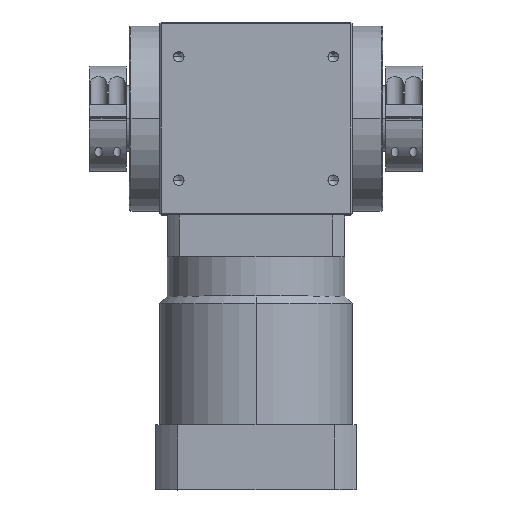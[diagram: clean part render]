
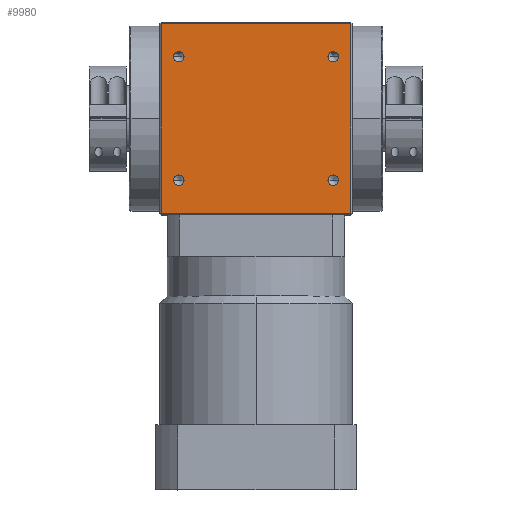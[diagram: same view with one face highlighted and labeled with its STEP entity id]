
A CAD part, top view. The second image highlights one B-rep face of the part: STEP entity #9980.
In plain terms, the highlighted planar face has unit normal (0, 0, 1).
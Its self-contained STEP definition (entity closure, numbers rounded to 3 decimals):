
#22 = EDGE_CURVE ( 'NONE', #7544, #5916, #7063, .T. ) ;
#277 = ORIENTED_EDGE ( 'NONE', *, *, #7768, .F. ) ;
#312 = LINE ( 'NONE', #6356, #7267 ) ;
#472 = EDGE_CURVE ( 'NONE', #9525, #8159, #312, .T. ) ;
#629 = EDGE_CURVE ( 'NONE', #7377, #10621, #2488, .T. ) ;
#976 = FACE_BOUND ( 'NONE', #4192, .T. ) ;
#1015 = LINE ( 'NONE', #2960, #9079 ) ;
#1017 = VERTEX_POINT ( 'NONE', #1633 ) ;
#1079 = FACE_BOUND ( 'NONE', #9977, .T. ) ;
#1166 = CIRCLE ( 'NONE', #1549, 3.4 ) ;
#1504 = CARTESIAN_POINT ( 'NONE',  ( 61.5, -61.5, 62.5 ) ) ;
#1528 = AXIS2_PLACEMENT_3D ( 'NONE', #6825, #1627, #7669 ) ;
#1540 = ORIENTED_EDGE ( 'NONE', *, *, #10075, .F. ) ;
#1549 = AXIS2_PLACEMENT_3D ( 'NONE', #3327, #9321, #4227 ) ;
#1627 = DIRECTION ( 'NONE',  ( 0., 0., 1. ) ) ;
#1633 = CARTESIAN_POINT ( 'NONE',  ( -53.4, -40., 62.5 ) ) ;
#1812 = ORIENTED_EDGE ( 'NONE', *, *, #10157, .F. ) ;
#1841 = ORIENTED_EDGE ( 'NONE', *, *, #4906, .F. ) ;
#1879 = AXIS2_PLACEMENT_3D ( 'NONE', #8380, #3185, #9173 ) ;
#1909 = AXIS2_PLACEMENT_3D ( 'NONE', #4978, #10813, #5836 ) ;
#1947 = DIRECTION ( 'NONE',  ( 1., 0., 0. ) ) ;
#1999 = CARTESIAN_POINT ( 'NONE',  ( 50., 40., 62.5 ) ) ;
#2009 = DIRECTION ( 'NONE',  ( 0., 0., 1. ) ) ;
#2028 = AXIS2_PLACEMENT_3D ( 'NONE', #2253, #8304, #3100 ) ;
#2252 = ORIENTED_EDGE ( 'NONE', *, *, #10061, .F. ) ;
#2253 = CARTESIAN_POINT ( 'NONE',  ( 61.5, -61.5, 62.5 ) ) ;
#2259 = ORIENTED_EDGE ( 'NONE', *, *, #9415, .F. ) ;
#2342 = CIRCLE ( 'NONE', #1879, 3.4 ) ;
#2417 = AXIS2_PLACEMENT_3D ( 'NONE', #1999, #2009, #1947 ) ;
#2435 = CARTESIAN_POINT ( 'NONE',  ( -61.5, 61.5, 62.5 ) ) ;
#2488 = LINE ( 'NONE', #8194, #7912 ) ;
#2550 = EDGE_CURVE ( 'NONE', #8159, #7377, #1015, .T. ) ;
#2624 = CARTESIAN_POINT ( 'NONE',  ( 46.6, 40., 62.5 ) ) ;
#2819 = ORIENTED_EDGE ( 'NONE', *, *, #2550, .F. ) ;
#2960 = CARTESIAN_POINT ( 'NONE',  ( 61.5, 61.5, 62.5 ) ) ;
#2995 = DIRECTION ( 'NONE',  ( 1., 0., 0. ) ) ;
#3100 = DIRECTION ( 'NONE',  ( -1., 0., 0. ) ) ;
#3185 = DIRECTION ( 'NONE',  ( 0., 0., 1. ) ) ;
#3210 = ORIENTED_EDGE ( 'NONE', *, *, #629, .F. ) ;
#3327 = CARTESIAN_POINT ( 'NONE',  ( -50., -40., 62.5 ) ) ;
#3867 = ORIENTED_EDGE ( 'NONE', *, *, #10160, .F. ) ;
#3925 = ORIENTED_EDGE ( 'NONE', *, *, #22, .F. ) ;
#4049 = CARTESIAN_POINT ( 'NONE',  ( 50., -40., 62.5 ) ) ;
#4090 = ORIENTED_EDGE ( 'NONE', *, *, #6506, .T. ) ;
#4192 = EDGE_LOOP ( 'NONE', ( #1812, #2259 ) ) ;
#4227 = DIRECTION ( 'NONE',  ( 1., 0., 0. ) ) ;
#4258 = AXIS2_PLACEMENT_3D ( 'NONE', #4049, #9981, #4955 ) ;
#4353 = CARTESIAN_POINT ( 'NONE',  ( 46.6, -40., 62.5 ) ) ;
#4391 = DIRECTION ( 'NONE',  ( 1., 0., 0. ) ) ;
#4403 = DIRECTION ( 'NONE',  ( 0., 0., 1. ) ) ;
#4420 = CARTESIAN_POINT ( 'NONE',  ( -50., 40., 62.5 ) ) ;
#4906 = EDGE_CURVE ( 'NONE', #5916, #7544, #9233, .T. ) ;
#4955 = DIRECTION ( 'NONE',  ( 1., 0., 0. ) ) ;
#4978 = CARTESIAN_POINT ( 'NONE',  ( -50., -40., 62.5 ) ) ;
#5260 = CARTESIAN_POINT ( 'NONE',  ( 53.4, 40., 62.5 ) ) ;
#5387 = VERTEX_POINT ( 'NONE', #7654 ) ;
#5395 = LINE ( 'NONE', #9722, #7518 ) ;
#5525 = EDGE_LOOP ( 'NONE', ( #3210, #2819, #7891, #4090 ) ) ;
#5836 = DIRECTION ( 'NONE',  ( 1., 0., 0. ) ) ;
#5907 = CARTESIAN_POINT ( 'NONE',  ( 61.5, 61.5, 62.5 ) ) ;
#5916 = VERTEX_POINT ( 'NONE', #2624 ) ;
#5924 = CARTESIAN_POINT ( 'NONE',  ( -46.6, 40., 62.5 ) ) ;
#6008 = DIRECTION ( 'NONE',  ( 0., 1., 0. ) ) ;
#6356 = CARTESIAN_POINT ( 'NONE',  ( -61.5, -61.5, 62.5 ) ) ;
#6506 = EDGE_CURVE ( 'NONE', #9525, #10621, #5395, .T. ) ;
#6825 = CARTESIAN_POINT ( 'NONE',  ( 50., -40., 62.5 ) ) ;
#6857 = CIRCLE ( 'NONE', #9758, 3.4 ) ;
#6872 = CIRCLE ( 'NONE', #1528, 3.4 ) ;
#7063 = CIRCLE ( 'NONE', #2417, 3.4 ) ;
#7091 = FACE_OUTER_BOUND ( 'NONE', #5525, .T. ) ;
#7267 = VECTOR ( 'NONE', #6008, 1000. ) ;
#7366 = VERTEX_POINT ( 'NONE', #5924 ) ;
#7377 = VERTEX_POINT ( 'NONE', #5907 ) ;
#7442 = PLANE ( 'NONE',  #2028 ) ;
#7518 = VECTOR ( 'NONE', #9709, 1000. ) ;
#7533 = CARTESIAN_POINT ( 'NONE',  ( 53.4, -40., 62.5 ) ) ;
#7536 = CIRCLE ( 'NONE', #4258, 3.4 ) ;
#7544 = VERTEX_POINT ( 'NONE', #5260 ) ;
#7654 = CARTESIAN_POINT ( 'NONE',  ( -46.6, -40., 62.5 ) ) ;
#7669 = DIRECTION ( 'NONE',  ( 1., 0., 0. ) ) ;
#7768 = EDGE_CURVE ( 'NONE', #9607, #7366, #6857, .T. ) ;
#7866 = CARTESIAN_POINT ( 'NONE',  ( -53.4, 40., 62.5 ) ) ;
#7891 = ORIENTED_EDGE ( 'NONE', *, *, #472, .F. ) ;
#7912 = VECTOR ( 'NONE', #9279, 1000. ) ;
#8039 = CIRCLE ( 'NONE', #1909, 3.4 ) ;
#8159 = VERTEX_POINT ( 'NONE', #2435 ) ;
#8194 = CARTESIAN_POINT ( 'NONE',  ( 61.5, -61.5, 62.5 ) ) ;
#8276 = EDGE_LOOP ( 'NONE', ( #3867, #1540 ) ) ;
#8304 = DIRECTION ( 'NONE',  ( 0., 0., -1. ) ) ;
#8380 = CARTESIAN_POINT ( 'NONE',  ( -50., 40., 62.5 ) ) ;
#8440 = AXIS2_PLACEMENT_3D ( 'NONE', #10780, #10287, #10254 ) ;
#8558 = CARTESIAN_POINT ( 'NONE',  ( -61.5, -61.5, 62.5 ) ) ;
#9079 = VECTOR ( 'NONE', #2995, 1000. ) ;
#9173 = DIRECTION ( 'NONE',  ( 1., 0., 0. ) ) ;
#9233 = CIRCLE ( 'NONE', #8440, 3.4 ) ;
#9279 = DIRECTION ( 'NONE',  ( 0., -1., 0. ) ) ;
#9321 = DIRECTION ( 'NONE',  ( 0., 0., 1. ) ) ;
#9415 = EDGE_CURVE ( 'NONE', #10235, #10660, #7536, .T. ) ;
#9525 = VERTEX_POINT ( 'NONE', #8558 ) ;
#9607 = VERTEX_POINT ( 'NONE', #7866 ) ;
#9709 = DIRECTION ( 'NONE',  ( 1., 0., 0. ) ) ;
#9722 = CARTESIAN_POINT ( 'NONE',  ( -61.5, -61.5, 62.5 ) ) ;
#9758 = AXIS2_PLACEMENT_3D ( 'NONE', #4420, #4403, #4391 ) ;
#9824 = FACE_BOUND ( 'NONE', #10706, .T. ) ;
#9977 = EDGE_LOOP ( 'NONE', ( #3925, #1841 ) ) ;
#9980 = ADVANCED_FACE ( 'NONE', ( #7091, #9824, #1079, #10796, #976 ), #7442, .F. ) ;
#9981 = DIRECTION ( 'NONE',  ( 0., 0., 1. ) ) ;
#10061 = EDGE_CURVE ( 'NONE', #7366, #9607, #2342, .T. ) ;
#10075 = EDGE_CURVE ( 'NONE', #1017, #5387, #8039, .T. ) ;
#10157 = EDGE_CURVE ( 'NONE', #10660, #10235, #6872, .T. ) ;
#10160 = EDGE_CURVE ( 'NONE', #5387, #1017, #1166, .T. ) ;
#10235 = VERTEX_POINT ( 'NONE', #4353 ) ;
#10254 = DIRECTION ( 'NONE',  ( 1., 0., 0. ) ) ;
#10287 = DIRECTION ( 'NONE',  ( 0., 0., 1. ) ) ;
#10621 = VERTEX_POINT ( 'NONE', #1504 ) ;
#10660 = VERTEX_POINT ( 'NONE', #7533 ) ;
#10706 = EDGE_LOOP ( 'NONE', ( #2252, #277 ) ) ;
#10780 = CARTESIAN_POINT ( 'NONE',  ( 50., 40., 62.5 ) ) ;
#10796 = FACE_BOUND ( 'NONE', #8276, .T. ) ;
#10813 = DIRECTION ( 'NONE',  ( 0., 0., 1. ) ) ;
